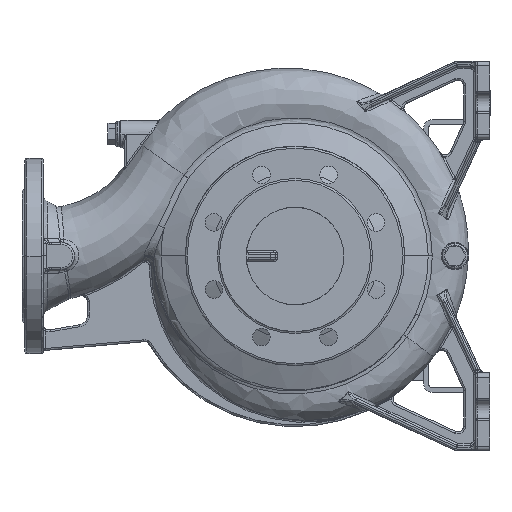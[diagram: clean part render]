
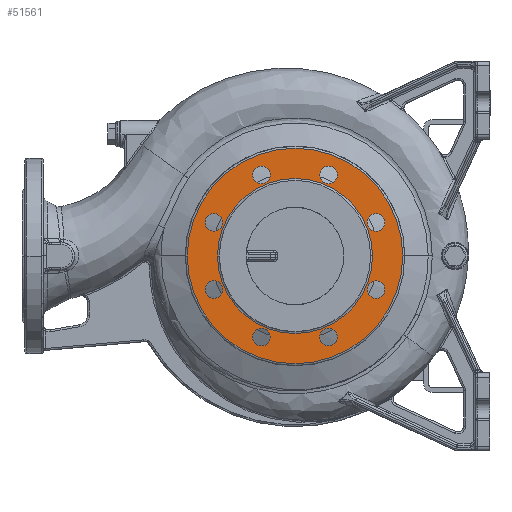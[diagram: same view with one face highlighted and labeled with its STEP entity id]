
A CAD part, front view. The second image highlights one B-rep face of the part: STEP entity #51561.
In plain terms, the highlighted planar face has unit normal (0, -1, 0) as drawn and (0, 0, 1) by its records, which use the part's own axes.
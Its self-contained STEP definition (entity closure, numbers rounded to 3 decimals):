
#33279=CARTESIAN_POINT('',(0.,0.,122.));
#33280=DIRECTION('',(0.,0.,-1.));
#33281=DIRECTION('',(0.,-1.,0.));
#33282=AXIS2_PLACEMENT_3D('',#33279,#33280,#33281);
#33287=CARTESIAN_POINT('',(0.,0.,122.));
#33288=DIRECTION('',(0.,0.,-1.));
#33289=DIRECTION('',(0.,1.,0.));
#33290=AXIS2_PLACEMENT_3D('',#33287,#33288,#33289);
#33295=CARTESIAN_POINT('',(0.,0.,122.));
#33296=DIRECTION('',(0.,0.,1.));
#33297=DIRECTION('',(0.,1.,0.));
#33298=AXIS2_PLACEMENT_3D('',#33295,#33296,#33297);
#33303=CARTESIAN_POINT('',(0.,0.,122.));
#33304=DIRECTION('',(0.,0.,1.));
#33305=DIRECTION('',(0.,-1.,0.));
#33306=AXIS2_PLACEMENT_3D('',#33303,#33304,#33305);
#33311=CARTESIAN_POINT('',(-34.442,83.149,122.));
#33312=DIRECTION('',(0.,0.,1.));
#33313=DIRECTION('',(1.,0.,0.));
#33314=AXIS2_PLACEMENT_3D('',#33311,#33312,#33313);
#33319=CARTESIAN_POINT('',(-34.442,83.149,122.));
#33320=DIRECTION('',(0.,0.,1.));
#33321=DIRECTION('',(-1.,0.,0.));
#33322=AXIS2_PLACEMENT_3D('',#33319,#33320,#33321);
#33327=CARTESIAN_POINT('',(-83.149,34.442,122.));
#33328=DIRECTION('',(0.,0.,1.));
#33329=DIRECTION('',(0.707,0.707,0.));
#33330=AXIS2_PLACEMENT_3D('',#33327,#33328,#33329);
#33335=CARTESIAN_POINT('',(-83.149,34.442,122.));
#33336=DIRECTION('',(0.,0.,1.));
#33337=DIRECTION('',(-0.707,-0.707,0.));
#33338=AXIS2_PLACEMENT_3D('',#33335,#33336,#33337);
#33343=CARTESIAN_POINT('',(-83.149,-34.442,122.));
#33344=DIRECTION('',(0.,0.,1.));
#33345=DIRECTION('',(0.,1.,0.));
#33346=AXIS2_PLACEMENT_3D('',#33343,#33344,#33345);
#33351=CARTESIAN_POINT('',(-83.149,-34.442,122.));
#33352=DIRECTION('',(0.,0.,1.));
#33353=DIRECTION('',(0.,-1.,0.));
#33354=AXIS2_PLACEMENT_3D('',#33351,#33352,#33353);
#33359=CARTESIAN_POINT('',(-34.442,-83.149,122.));
#33360=DIRECTION('',(0.,0.,1.));
#33361=DIRECTION('',(-0.707,0.707,0.));
#33362=AXIS2_PLACEMENT_3D('',#33359,#33360,#33361);
#33367=CARTESIAN_POINT('',(-34.442,-83.149,122.));
#33368=DIRECTION('',(0.,0.,1.));
#33369=DIRECTION('',(0.707,-0.707,0.));
#33370=AXIS2_PLACEMENT_3D('',#33367,#33368,#33369);
#33375=CARTESIAN_POINT('',(34.442,-83.149,122.));
#33376=DIRECTION('',(0.,0.,1.));
#33377=DIRECTION('',(-1.,0.,0.));
#33378=AXIS2_PLACEMENT_3D('',#33375,#33376,#33377);
#33383=CARTESIAN_POINT('',(34.442,-83.149,122.));
#33384=DIRECTION('',(0.,0.,1.));
#33385=DIRECTION('',(1.,0.,0.));
#33386=AXIS2_PLACEMENT_3D('',#33383,#33384,#33385);
#33391=CARTESIAN_POINT('',(83.149,-34.442,122.));
#33392=DIRECTION('',(0.,0.,1.));
#33393=DIRECTION('',(-0.707,-0.707,0.));
#33394=AXIS2_PLACEMENT_3D('',#33391,#33392,#33393);
#33399=CARTESIAN_POINT('',(83.149,-34.442,122.));
#33400=DIRECTION('',(0.,0.,1.));
#33401=DIRECTION('',(0.707,0.707,0.));
#33402=AXIS2_PLACEMENT_3D('',#33399,#33400,#33401);
#33407=CARTESIAN_POINT('',(83.149,34.442,122.));
#33408=DIRECTION('',(0.,0.,1.));
#33409=DIRECTION('',(0.,-1.,0.));
#33410=AXIS2_PLACEMENT_3D('',#33407,#33408,#33409);
#33415=CARTESIAN_POINT('',(83.149,34.442,122.));
#33416=DIRECTION('',(0.,0.,1.));
#33417=DIRECTION('',(0.,1.,0.));
#33418=AXIS2_PLACEMENT_3D('',#33415,#33416,#33417);
#33423=CARTESIAN_POINT('',(34.442,83.149,122.));
#33424=DIRECTION('',(0.,0.,1.));
#33425=DIRECTION('',(0.707,-0.707,0.));
#33426=AXIS2_PLACEMENT_3D('',#33423,#33424,#33425);
#33431=CARTESIAN_POINT('',(34.442,83.149,122.));
#33432=DIRECTION('',(0.,0.,1.));
#33433=DIRECTION('',(-0.707,0.707,0.));
#33434=AXIS2_PLACEMENT_3D('',#33431,#33432,#33433);
#41002=CARTESIAN_POINT('',(0.,-79.5,122.));
#41003=CARTESIAN_POINT('',(0.,79.5,122.));
#41004=VERTEX_POINT('',#41002);
#41005=VERTEX_POINT('',#41003);
#41006=CARTESIAN_POINT('',(0.,110.5,122.));
#41007=CARTESIAN_POINT('',(0.,-110.5,122.));
#41008=VERTEX_POINT('',#41006);
#41009=VERTEX_POINT('',#41007);
#41078=CARTESIAN_POINT('',(-25.442,83.149,122.));
#41079=CARTESIAN_POINT('',(-43.442,83.149,122.));
#41080=VERTEX_POINT('',#41078);
#41081=VERTEX_POINT('',#41079);
#41086=CARTESIAN_POINT('',(-76.785,40.805,122.));
#41087=CARTESIAN_POINT('',(-89.513,28.078,122.));
#41088=VERTEX_POINT('',#41086);
#41089=VERTEX_POINT('',#41087);
#41094=CARTESIAN_POINT('',(-83.149,-25.442,122.));
#41095=CARTESIAN_POINT('',(-83.149,-43.442,122.));
#41096=VERTEX_POINT('',#41094);
#41097=VERTEX_POINT('',#41095);
#41102=CARTESIAN_POINT('',(-40.805,-76.785,122.));
#41103=CARTESIAN_POINT('',(-28.078,-89.513,122.));
#41104=VERTEX_POINT('',#41102);
#41105=VERTEX_POINT('',#41103);
#41110=CARTESIAN_POINT('',(25.442,-83.149,122.));
#41111=CARTESIAN_POINT('',(43.442,-83.149,122.));
#41112=VERTEX_POINT('',#41110);
#41113=VERTEX_POINT('',#41111);
#41118=CARTESIAN_POINT('',(76.785,-40.805,122.));
#41119=CARTESIAN_POINT('',(89.513,-28.078,122.));
#41120=VERTEX_POINT('',#41118);
#41121=VERTEX_POINT('',#41119);
#41126=CARTESIAN_POINT('',(83.149,25.442,122.));
#41127=CARTESIAN_POINT('',(83.149,43.442,122.));
#41128=VERTEX_POINT('',#41126);
#41129=VERTEX_POINT('',#41127);
#41134=CARTESIAN_POINT('',(40.805,76.785,122.));
#41135=CARTESIAN_POINT('',(28.078,89.513,122.));
#41136=VERTEX_POINT('',#41134);
#41137=VERTEX_POINT('',#41135);
#51497=CARTESIAN_POINT('',(0.,0.,122.));
#51498=DIRECTION('',(0.,0.,-1.));
#51499=DIRECTION('',(0.,-1.,0.));
#51500=AXIS2_PLACEMENT_3D('',#51497,#51498,#51499);
#51501=PLANE('',#51500);
#51503=ORIENTED_EDGE('',*,*,#51502,.F.);
#51505=ORIENTED_EDGE('',*,*,#51504,.F.);
#51506=EDGE_LOOP('',(#51503,#51505));
#51507=FACE_OUTER_BOUND('',#51506,.F.);
#51509=ORIENTED_EDGE('',*,*,#51508,.F.);
#51511=ORIENTED_EDGE('',*,*,#51510,.F.);
#51512=EDGE_LOOP('',(#51509,#51511));
#51513=FACE_BOUND('',#51512,.F.);
#51514=ORIENTED_EDGE('',*,*,#51487,.T.);
#51516=ORIENTED_EDGE('',*,*,#51515,.T.);
#51517=EDGE_LOOP('',(#51514,#51516));
#51518=FACE_BOUND('',#51517,.F.);
#51520=ORIENTED_EDGE('',*,*,#51519,.T.);
#51522=ORIENTED_EDGE('',*,*,#51521,.T.);
#51523=EDGE_LOOP('',(#51520,#51522));
#51524=FACE_BOUND('',#51523,.F.);
#51526=ORIENTED_EDGE('',*,*,#51525,.T.);
#51528=ORIENTED_EDGE('',*,*,#51527,.T.);
#51529=EDGE_LOOP('',(#51526,#51528));
#51530=FACE_BOUND('',#51529,.F.);
#51532=ORIENTED_EDGE('',*,*,#51531,.T.);
#51534=ORIENTED_EDGE('',*,*,#51533,.T.);
#51535=EDGE_LOOP('',(#51532,#51534));
#51536=FACE_BOUND('',#51535,.F.);
#51538=ORIENTED_EDGE('',*,*,#51537,.T.);
#51540=ORIENTED_EDGE('',*,*,#51539,.T.);
#51541=EDGE_LOOP('',(#51538,#51540));
#51542=FACE_BOUND('',#51541,.F.);
#51544=ORIENTED_EDGE('',*,*,#51543,.T.);
#51546=ORIENTED_EDGE('',*,*,#51545,.T.);
#51547=EDGE_LOOP('',(#51544,#51546));
#51548=FACE_BOUND('',#51547,.F.);
#51550=ORIENTED_EDGE('',*,*,#51549,.T.);
#51552=ORIENTED_EDGE('',*,*,#51551,.T.);
#51553=EDGE_LOOP('',(#51550,#51552));
#51554=FACE_BOUND('',#51553,.F.);
#51556=ORIENTED_EDGE('',*,*,#51555,.T.);
#51558=ORIENTED_EDGE('',*,*,#51557,.T.);
#51559=EDGE_LOOP('',(#51556,#51558));
#51560=FACE_BOUND('',#51559,.F.);
#33283=CIRCLE('',#33282,79.5);
#33291=CIRCLE('',#33290,79.5);
#33299=CIRCLE('',#33298,110.5);
#33307=CIRCLE('',#33306,110.5);
#33315=CIRCLE('',#33314,9.);
#33323=CIRCLE('',#33322,9.);
#33331=CIRCLE('',#33330,9.);
#33339=CIRCLE('',#33338,9.);
#33347=CIRCLE('',#33346,9.);
#33355=CIRCLE('',#33354,9.);
#33363=CIRCLE('',#33362,9.);
#33371=CIRCLE('',#33370,9.);
#33379=CIRCLE('',#33378,9.);
#33387=CIRCLE('',#33386,9.);
#33395=CIRCLE('',#33394,9.);
#33403=CIRCLE('',#33402,9.);
#33411=CIRCLE('',#33410,9.);
#33419=CIRCLE('',#33418,9.);
#33427=CIRCLE('',#33426,9.);
#33435=CIRCLE('',#33434,9.);
#51487=EDGE_CURVE('',#41080,#41081,#33315,.T.);
#51502=EDGE_CURVE('',#41008,#41009,#33299,.T.);
#51504=EDGE_CURVE('',#41009,#41008,#33307,.T.);
#51508=EDGE_CURVE('',#41004,#41005,#33283,.T.);
#51510=EDGE_CURVE('',#41005,#41004,#33291,.T.);
#51515=EDGE_CURVE('',#41081,#41080,#33323,.T.);
#51519=EDGE_CURVE('',#41088,#41089,#33331,.T.);
#51521=EDGE_CURVE('',#41089,#41088,#33339,.T.);
#51525=EDGE_CURVE('',#41096,#41097,#33347,.T.);
#51527=EDGE_CURVE('',#41097,#41096,#33355,.T.);
#51531=EDGE_CURVE('',#41104,#41105,#33363,.T.);
#51533=EDGE_CURVE('',#41105,#41104,#33371,.T.);
#51537=EDGE_CURVE('',#41112,#41113,#33379,.T.);
#51539=EDGE_CURVE('',#41113,#41112,#33387,.T.);
#51543=EDGE_CURVE('',#41120,#41121,#33395,.T.);
#51545=EDGE_CURVE('',#41121,#41120,#33403,.T.);
#51549=EDGE_CURVE('',#41128,#41129,#33411,.T.);
#51551=EDGE_CURVE('',#41129,#41128,#33419,.T.);
#51555=EDGE_CURVE('',#41136,#41137,#33427,.T.);
#51557=EDGE_CURVE('',#41137,#41136,#33435,.T.);
#51561=ADVANCED_FACE('',(#51507,#51513,#51518,#51524,#51530,#51536,#51542,
#51548,#51554,#51560),#51501,.F.);
